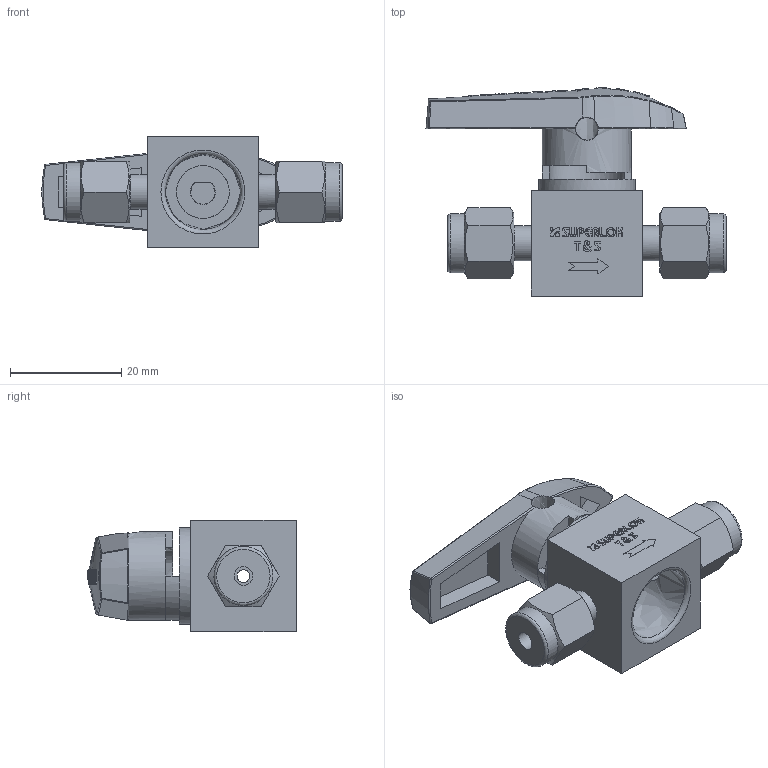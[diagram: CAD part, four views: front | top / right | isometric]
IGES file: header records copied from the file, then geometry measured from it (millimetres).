
Global section: file name: SPV132-S2; native system: Autodesk Inventor 2016; preprocessor: unknown; author: DESIGNPC2; date: 20160502.091700; units: millimetre
Bounding box: 54.03 x 37.5 x 20.01 mm (x, y, z)
Volume: 11550.1 mm3; surface area: 7335.6 mm2
Topology: 2 solids, 2 shells, 427 faces, 1135 edges, 755 vertices
Faces by surface type: bspline 427
